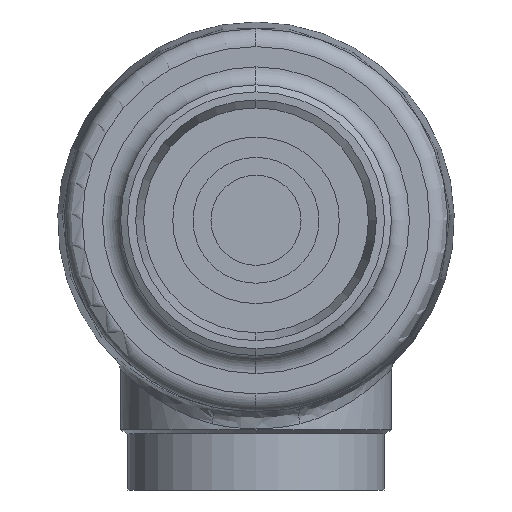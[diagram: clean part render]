
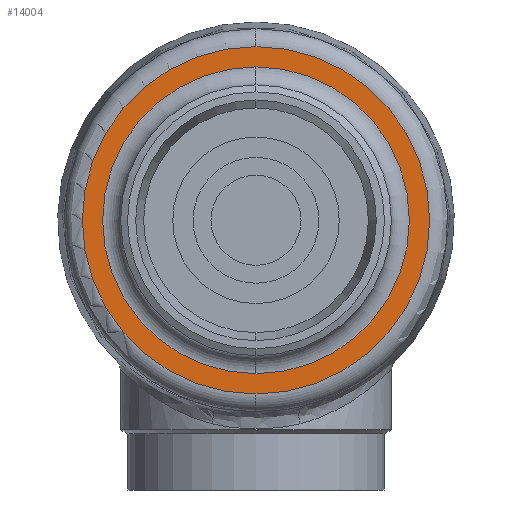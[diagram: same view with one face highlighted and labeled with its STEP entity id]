
A CAD part, front view. The second image highlights one B-rep face of the part: STEP entity #14004.
In plain terms, the highlighted planar face has unit normal (0, -1, 0).
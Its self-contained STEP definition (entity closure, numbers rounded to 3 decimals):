
#16807 = CARTESIAN_POINT ( 'NONE',  ( 0., -145., 77.274 ) ) ;
#16841 = CIRCLE ( 'NONE', #16842, 68.25 ) ;
#16842 = AXIS2_PLACEMENT_3D ( 'NONE', #16843, #16845, #16846 ) ;
#16843 = CARTESIAN_POINT ( 'NONE',  ( 0., -145., 0. ) ) ;
#16845 = DIRECTION ( 'NONE',  ( 0., 1., 0. ) ) ;
#16846 = DIRECTION ( 'NONE',  ( 0., 0., -1. ) ) ;
#1373 = EDGE_LOOP ( 'NONE', ( #4858, #4401 ) ) ;
#1483 = VERTEX_POINT ( 'NONE', #16807 ) ;
#1606 = EDGE_CURVE ( 'NONE', #6432, #13397, #16841, .T. ) ;
#1963 = ORIENTED_EDGE ( 'NONE', *, *, #1606, .T. ) ;
#4240 = EDGE_CURVE ( 'NONE', #1483, #14041, #9026, .T. ) ;
#4401 = ORIENTED_EDGE ( 'NONE', *, *, #4240, .T. ) ;
#4858 = ORIENTED_EDGE ( 'NONE', *, *, #14191, .T. ) ;
#5769 = EDGE_CURVE ( 'NONE', #13397, #6432, #13252, .T. ) ;
#6432 = VERTEX_POINT ( 'NONE', #13692 ) ;
#7589 = ORIENTED_EDGE ( 'NONE', *, *, #5769, .T. ) ;
#8089 = EDGE_LOOP ( 'NONE', ( #7589, #1963 ) ) ;
#9026 = CIRCLE ( 'NONE', #9027, 77.274 ) ;
#9027 = AXIS2_PLACEMENT_3D ( 'NONE', #9028, #9029, #9030 ) ;
#9028 = CARTESIAN_POINT ( 'NONE',  ( 0., -145., 0. ) ) ;
#9029 = DIRECTION ( 'NONE',  ( 0., -1., 0. ) ) ;
#9030 = DIRECTION ( 'NONE',  ( 0., 0., -1. ) ) ;
#9082 = CARTESIAN_POINT ( 'NONE',  ( 0., -145., -68.25 ) ) ;
#9616 = FACE_BOUND ( 'NONE', #8089, .T. ) ;
#9617 = FACE_OUTER_BOUND ( 'NONE', #1373, .T. ) ;
#9618 = PLANE ( 'NONE',  #9619 ) ;
#9619 = AXIS2_PLACEMENT_3D ( 'NONE', #9620, #9621, #9622 ) ;
#9620 = CARTESIAN_POINT ( 'NONE',  ( 0., -145., 0. ) ) ;
#9621 = DIRECTION ( 'NONE',  ( 0., -1., 0. ) ) ;
#9622 = DIRECTION ( 'NONE',  ( 0., 0., -1. ) ) ;
#9634 = CARTESIAN_POINT ( 'NONE',  ( 0., -145., -77.274 ) ) ;
#9824 = CIRCLE ( 'NONE', #9825, 77.274 ) ;
#9825 = AXIS2_PLACEMENT_3D ( 'NONE', #9826, #9827, #9828 ) ;
#9826 = CARTESIAN_POINT ( 'NONE',  ( 0., -145., 0. ) ) ;
#9827 = DIRECTION ( 'NONE',  ( 0., -1., 0. ) ) ;
#9828 = DIRECTION ( 'NONE',  ( 0., 0., -1. ) ) ;
#13252 = CIRCLE ( 'NONE', #13253, 68.25 ) ;
#13253 = AXIS2_PLACEMENT_3D ( 'NONE', #13254, #13255, #13256 ) ;
#13254 = CARTESIAN_POINT ( 'NONE',  ( 0., -145., 0. ) ) ;
#13255 = DIRECTION ( 'NONE',  ( 0., 1., 0. ) ) ;
#13256 = DIRECTION ( 'NONE',  ( 0., 0., -1. ) ) ;
#13397 = VERTEX_POINT ( 'NONE', #9082 ) ;
#13692 = CARTESIAN_POINT ( 'NONE',  ( 0., -145., 68.25 ) ) ;
#14004 = ADVANCED_FACE ( 'NONE', ( #9616, #9617 ), #9618, .T. ) ;
#14041 = VERTEX_POINT ( 'NONE', #9634 ) ;
#14191 = EDGE_CURVE ( 'NONE', #14041, #1483, #9824, .T. ) ;
